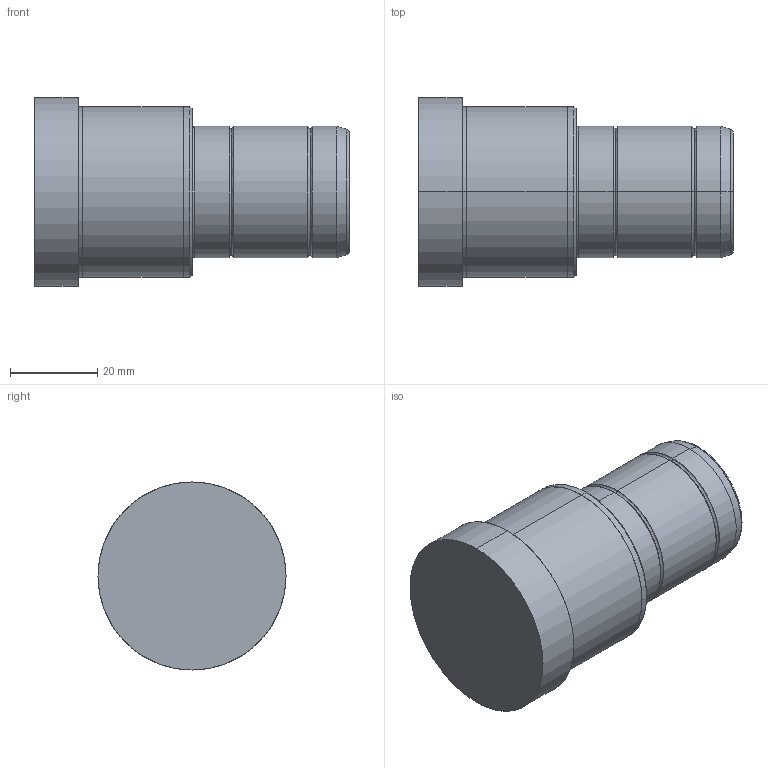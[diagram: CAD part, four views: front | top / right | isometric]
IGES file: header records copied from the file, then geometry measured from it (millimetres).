
Start section: SolidWorks IGES file using analytic representation for surfaces
Global section: file name: C:\Documents and Settings\kalite-mail\Desktop\IGS\D02\30\D02 - 30x36x36.IGS; native system: SolidWorks 2008; preprocessor: SolidWorks 2008; author: kalite-mail; date: 080617.085910; units: millimetre
Bounding box: 72 x 43 x 43 mm (x, y, z)
Surface area: 10790.7 mm2 (no closed solid volume)
Topology: 0 solids, 0 shells, 36 faces, 728 edges, 728 vertices
Faces by surface type: bspline 18, revolution 18
